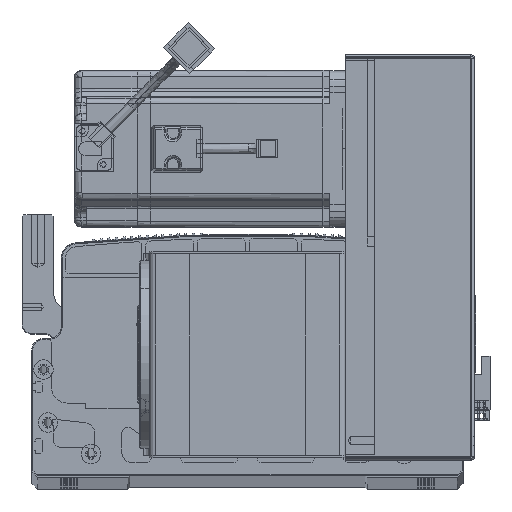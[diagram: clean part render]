
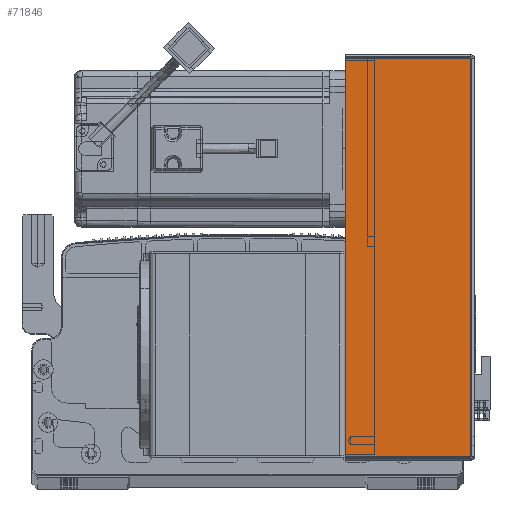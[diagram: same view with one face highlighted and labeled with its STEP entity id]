
A CAD part, top view. The second image highlights one B-rep face of the part: STEP entity #71846.
In plain terms, the highlighted planar face has unit normal (0, 0, 1) as drawn and (0, -1, 0) by its records, which use the part's own axes.
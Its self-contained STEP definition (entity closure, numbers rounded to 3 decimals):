
#2012 = CARTESIAN_POINT ( 'NONE',  ( 0., -1.5, -203.293 ) ) ;
#2726 = CARTESIAN_POINT ( 'NONE',  ( 0., -1.5, 0. ) ) ;
#3877 = CARTESIAN_POINT ( 'NONE',  ( 0., -1.5, -0.707 ) ) ;
#4658 = VECTOR ( 'NONE', #98502, 1000. ) ;
#6463 = EDGE_LOOP ( 'NONE', ( #88283, #13444, #100151, #61156 ) ) ;
#8129 = CARTESIAN_POINT ( 'NONE',  ( 64.5, -1.5, -203.293 ) ) ;
#8924 = CARTESIAN_POINT ( 'NONE',  ( 64.5, -1.5, 0. ) ) ;
#11446 = AXIS2_PLACEMENT_3D ( 'NONE', #2726, #57999, #17597 ) ;
#13444 = ORIENTED_EDGE ( 'NONE', *, *, #102424, .T. ) ;
#15515 = LINE ( 'NONE', #2012, #72414 ) ;
#17597 = DIRECTION ( 'NONE',  ( -1., 0., 0. ) ) ;
#21979 = VERTEX_POINT ( 'NONE', #94513 ) ;
#25977 = CARTESIAN_POINT ( 'NONE',  ( 0.737, -1.5, -203.293 ) ) ;
#30232 = VERTEX_POINT ( 'NONE', #8129 ) ;
#31459 = EDGE_CURVE ( 'NONE', #75175, #21979, #56625, .T. ) ;
#33121 = DIRECTION ( 'NONE',  ( 0., 0., 1. ) ) ;
#33356 = VECTOR ( 'NONE', #33121, 1000. ) ;
#42112 = PLANE ( 'NONE',  #11446 ) ;
#44255 = VECTOR ( 'NONE', #76226, 1000. ) ;
#56625 = LINE ( 'NONE', #3877, #4658 ) ;
#57307 = DIRECTION ( 'NONE',  ( 1., 0., 0. ) ) ;
#57999 = DIRECTION ( 'NONE',  ( 0., 1., 0. ) ) ;
#61156 = ORIENTED_EDGE ( 'NONE', *, *, #31459, .F. ) ;
#69160 = EDGE_CURVE ( 'NONE', #30232, #21979, #74065, .T. ) ;
#71846 = ADVANCED_FACE ( 'NONE', ( #100688 ), #42112, .F. ) ;
#72414 = VECTOR ( 'NONE', #57307, 1000. ) ;
#72703 = LINE ( 'NONE', #99010, #44255 ) ;
#74065 = LINE ( 'NONE', #8924, #33356 ) ;
#75175 = VERTEX_POINT ( 'NONE', #92599 ) ;
#76226 = DIRECTION ( 'NONE',  ( 0., 0., 1. ) ) ;
#87270 = VERTEX_POINT ( 'NONE', #25977 ) ;
#88283 = ORIENTED_EDGE ( 'NONE', *, *, #97980, .F. ) ;
#92599 = CARTESIAN_POINT ( 'NONE',  ( 0.737, -1.5, -0.707 ) ) ;
#94513 = CARTESIAN_POINT ( 'NONE',  ( 64.5, -1.5, -0.707 ) ) ;
#97980 = EDGE_CURVE ( 'NONE', #87270, #75175, #72703, .T. ) ;
#98502 = DIRECTION ( 'NONE',  ( 1., 0., 0. ) ) ;
#99010 = CARTESIAN_POINT ( 'NONE',  ( 0.737, -1.5, 0. ) ) ;
#100151 = ORIENTED_EDGE ( 'NONE', *, *, #69160, .T. ) ;
#100688 = FACE_OUTER_BOUND ( 'NONE', #6463, .T. ) ;
#102424 = EDGE_CURVE ( 'NONE', #87270, #30232, #15515, .T. ) ;
